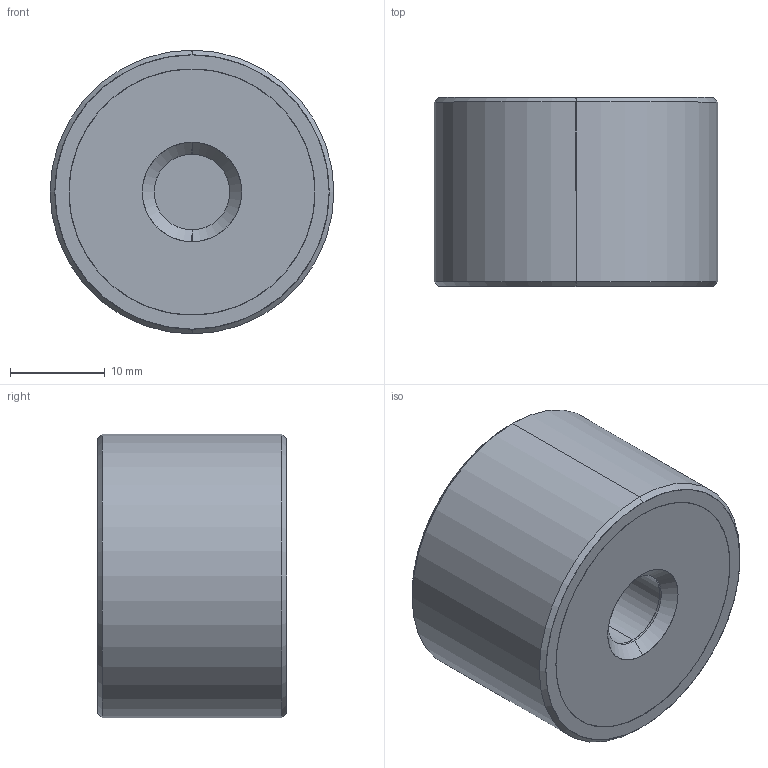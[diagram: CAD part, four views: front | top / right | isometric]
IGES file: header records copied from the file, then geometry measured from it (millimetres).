
Start section: SolidWorks IGES file using analytic representation for surfaces
Global section: file name: E:\WIXROYD 20180701\61080_v2\61080_v2_20180409_IGES\61080.W0301.igs; native system: SolidWorks 2017; preprocessor: SolidWorks 2017; author: liam_; date: 180716.214354; units: millimetre
Bounding box: 30 x 20 x 30 mm (x, y, z)
Surface area: 6025 mm2 (no closed solid volume)
Topology: 0 solids, 0 shells, 36 faces, 744 edges, 744 vertices
Faces by surface type: revolution 26, bspline 10
